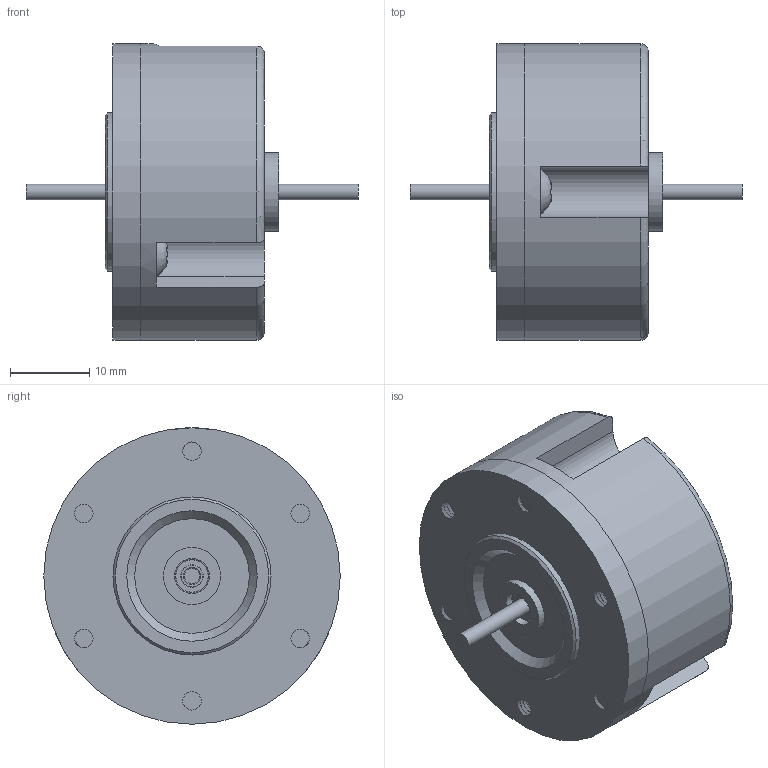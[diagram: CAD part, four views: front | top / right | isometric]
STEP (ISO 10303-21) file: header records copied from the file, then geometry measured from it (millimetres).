
FILE_DESCRIPTION((''),'1');
FILE_NAME('//Ha8000fs/isc/生産本部/ユニット部/図庫/国内ﾕﾆｯﾄ/ｴﾝﾙｰﾄ(ｲｰﾑｽﾞﾗﾎﾞ・ｱﾄﾗｯｸﾗﾎﾞ)/ﾄﾗｸｼｮﾝﾄﾞﾗｲﾌﾞ/ホームページ', '2021-04-19T04:20:13',(''), (''), 'KCM Version 1.1.1442.0', 'Kubotek KeyCreator', '');
FILE_SCHEMA(('AUTOMOTIVE_DESIGN'));
Length unit declared in the file: millimetre
Bounding box: 42 x 37.5 x 37.5 mm (x, y, z)
Surface area: 5574.6 mm2 (no closed solid volume)
Topology: 0 solids, 280 shells, 280 faces, 1385 edges, 1294 vertices
Faces by surface type: cone 143, plane 74, cylinder 57, bspline 3, torus 3
Full cylindrical faces by diameter (mm): 2 x2, 3 x3, 4.4 x1, 5.4 x1, 5.7 x3, 7.25 x1, 10 x1, 20 x1, 37.5 x2
Entity records: 15679 total; most frequent: CARTESIAN_POINT 4981, DIRECTION 2202, ORIENTED_EDGE 1474, EDGE_CURVE 1385, VERTEX_POINT 1294, AXIS2_PLACEMENT_3D 920, CIRCLE 567, VECTOR 362
